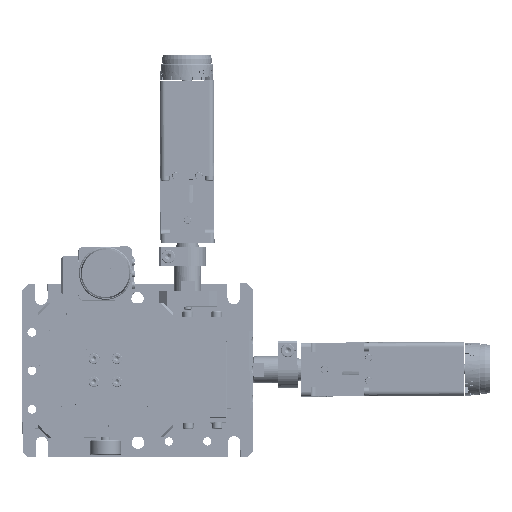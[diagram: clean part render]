
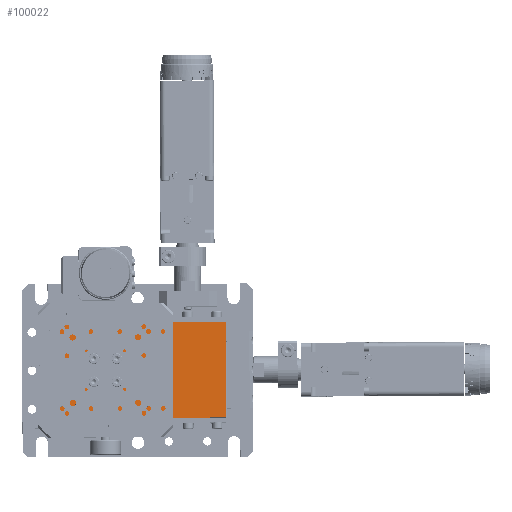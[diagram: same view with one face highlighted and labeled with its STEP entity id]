
A CAD part, top view. The second image highlights one B-rep face of the part: STEP entity #100022.
In plain terms, the highlighted planar face has unit normal (0.003, 0.002, 1).
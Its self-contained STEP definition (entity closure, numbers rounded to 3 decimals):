
#5517=LINE('',#211541,#13158);
#5518=LINE('',#211543,#13159);
#5519=LINE('',#211545,#13160);
#5520=LINE('',#211546,#13161);
#13158=VECTOR('',#122954,49.6);
#13159=VECTOR('',#122955,87.6);
#13160=VECTOR('',#122956,49.6);
#13161=VECTOR('',#122957,87.6);
#22765=PLANE('',#107284);
#25676=FACE_BOUND('',#35876,.T.);
#25677=FACE_BOUND('',#35877,.T.);
#35876=EDGE_LOOP('',(#80312));
#35877=EDGE_LOOP('',(#80313,#80314,#80315,#80316));
#40506=CIRCLE('',#106157,12.);
#46164=VERTEX_POINT('',#208681);
#46983=VERTEX_POINT('',#211539);
#46984=VERTEX_POINT('',#211540);
#46985=VERTEX_POINT('',#211542);
#46986=VERTEX_POINT('',#211544);
#57785=EDGE_CURVE('',#46164,#46164,#40506,.T.);
#59139=EDGE_CURVE('',#46983,#46984,#5517,.T.);
#59140=EDGE_CURVE('',#46985,#46983,#5518,.T.);
#59141=EDGE_CURVE('',#46986,#46985,#5519,.T.);
#59142=EDGE_CURVE('',#46984,#46986,#5520,.T.);
#80312=ORIENTED_EDGE('',*,*,#57785,.T.);
#80313=ORIENTED_EDGE('',*,*,#59139,.F.);
#80314=ORIENTED_EDGE('',*,*,#59140,.F.);
#80315=ORIENTED_EDGE('',*,*,#59141,.F.);
#80316=ORIENTED_EDGE('',*,*,#59142,.F.);
#100022=ADVANCED_FACE('',(#25676,#25677),#22765,.F.);
#106157=AXIS2_PLACEMENT_3D('',#208682,#119847,#119848);
#107284=AXIS2_PLACEMENT_3D('',#211538,#122952,#122953);
#119847=DIRECTION('center_axis',(-0.003,-0.002,
-1.));
#119848=DIRECTION('ref_axis',(-0.003,1.,-0.002));
#122952=DIRECTION('center_axis',(-0.003,-0.002,
-1.));
#122953=DIRECTION('ref_axis',(-0.003,1.,-0.002));
#122954=DIRECTION('',(-0.003,1.,-0.002));
#122955=DIRECTION('',(-1.,-0.003,0.003));
#122956=DIRECTION('',(0.003,-1.,0.002));
#122957=DIRECTION('',(1.,0.003,-0.003));
#208681=CARTESIAN_POINT('',(-8.936,33.044,66.004));
#208682=CARTESIAN_POINT('Origin',(-8.977,45.044,65.983));
#211538=CARTESIAN_POINT('Origin',(10.022,45.11,65.929));
#211539=CARTESIAN_POINT('',(-33.691,20.159,66.097));
#211540=CARTESIAN_POINT('',(-33.863,69.758,66.009));
#211541=CARTESIAN_POINT('',(-33.821,57.458,66.031));
#211542=CARTESIAN_POINT('',(53.908,20.462,65.849));
#211543=CARTESIAN_POINT('',(-11.891,20.234,66.035));
#211544=CARTESIAN_POINT('',(53.736,70.062,65.761));
#211545=CARTESIAN_POINT('',(53.865,32.762,65.827));
#211546=CARTESIAN_POINT('',(31.936,69.986,65.823));
